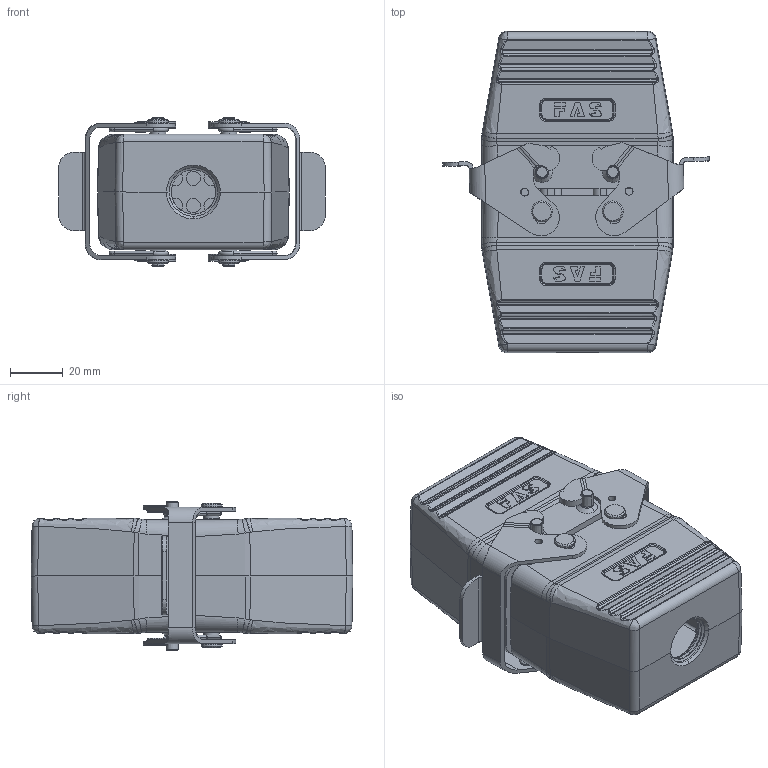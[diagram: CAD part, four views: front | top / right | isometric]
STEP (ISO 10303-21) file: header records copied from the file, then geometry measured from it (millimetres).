
FILE_DESCRIPTION (( 'STEP AP214' ), '1' );
FILE_NAME ('09110109220 HESH、10针、对接底座、顶出M20套件.STEP', '2024-04-26T09:02:52', ( 'L' ), ( '' ), 'SwSTEP 2.0', 'SolidWorks 2019', '' );
FILE_SCHEMA (( 'AUTOMOTIVE_DESIGN' ));
Length unit declared in the file: millimetre
Products named in the file (5): HESH-010-F.stp; HESH-010-M.stp; 09110109220 HESH、10针、对接底座、顶出M20套件; H10B-TG-M20.step; H10B-TBF-M20.step
Assembly tree (4 placements, depth 2):
  09110109220 HESH、10针、对接底座、顶出M20套件
    HESH-010-F.stp
    HESH-010-M.stp
    H10B-TG-M20.step
    H10B-TBF-M20.step
Bounding box: 101.61 x 122.5 x 56.4 mm (x, y, z)
Volume: 201400.5 mm3; surface area: 102474.2 mm2
Topology: 4 solids, 4 shells, 3441 faces, 8941 edges, 5652 vertices
Faces by surface type: plane 1565, cylinder 852, bspline 486, cone 346, torus 148, sphere 44
Entity records: 136388 total; most frequent: CARTESIAN_POINT 44960, ORIENTED_EDGE 17746, DIRECTION 15309, EDGE_CURVE 8873, VERTEX_POINT 5648, AXIS2_PLACEMENT_3D 5206, VECTOR 4897, LINE 4897
